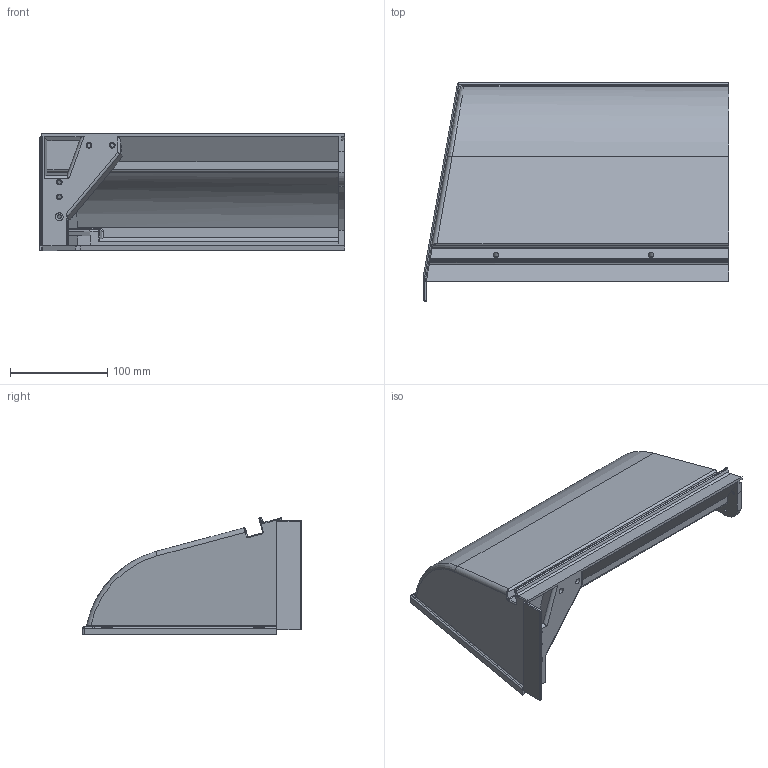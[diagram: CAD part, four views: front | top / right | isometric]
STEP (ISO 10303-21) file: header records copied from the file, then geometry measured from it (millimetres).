
FILE_DESCRIPTION(('STEP AP242 Edition 2','STEP AP242 Edition 2''CAx-IF Rec.Pracs.---Representation and Presentation of Product Manufacturing Information (PMI)---4.0---2014-10-13','STEP AP242 Edition 2''CAx-IF Rec.Pracs.---Representation and Presentation of Product Manufacturing Information (PMI)---4.0---2014-10-13''CAx-IF Rec.Pracs.---3D Tessellated Geometry---0.4---2014-09-14','STEP AP242 Edition 2''CAx-IF Rec.Pracs.---Representation and Presentation of Product Manufacturing Information (PMI)---4.0---2014-10-13''CAx-IF Rec.Pracs.---3D Tessellated Geometry---0.4---2014-09-14''2;1','STEP AP242 Edition 2''CAx-IF Rec.Pracs.---Representation and Presentation of Product Manufacturing Information (PMI)---4.0---2014-10-13''CAx-IF Rec.Pracs.---3D Tessellated Geometry---0.4---2014-09-14''2;1''CAx-IF Rec.Pracs.---User Defined Attributes---1.5---2016-08-15'),'2;1');
FILE_NAME('/vol/tmp/translate-5928582753522486027/Part Studio Body Front - Part Front Left Top - White Car Color.step','2026-05-02T13:02:39',(''),(''),'ST-DEVELOPER v20','ONSHAPE BY PTC INC, 1.214',' ');
FILE_SCHEMA(('AP242_MANAGED_MODEL_BASED_3D_ENGINEERING_MIM_LF { 1 0 10303 442 3 1 4 }'));
Length unit declared in the file: metre
Products named in the file (1): Part Front Left Top - White Car Color
Bounding box: 314.66 x 224.84 x 120.89 mm (x, y, z)
Volume: 988857 mm3; surface area: 239280.8 mm2
Topology: 1 solids, 1 shells, 194 faces, 546 edges, 356 vertices
Faces by surface type: cylinder 86, plane 78, bspline 21, cone 6, sphere 3
Full cylindrical faces by diameter (mm): 2.75 x23, 3 x6, 4 x5, 5.6 x6, 8 x1
Entity records: 7633 total; most frequent: CARTESIAN_POINT 2324, DIRECTION 1008, ORIENTED_EDGE 922, EDGE_CURVE 461, AXIS2_PLACEMENT_3D 383, VERTEX_POINT 328, FACE_BOUND 307, EDGE_LOOP 301
